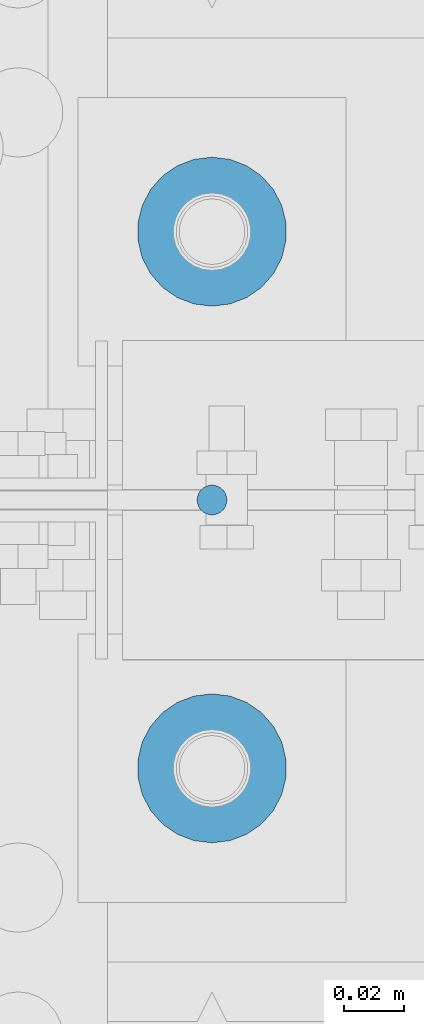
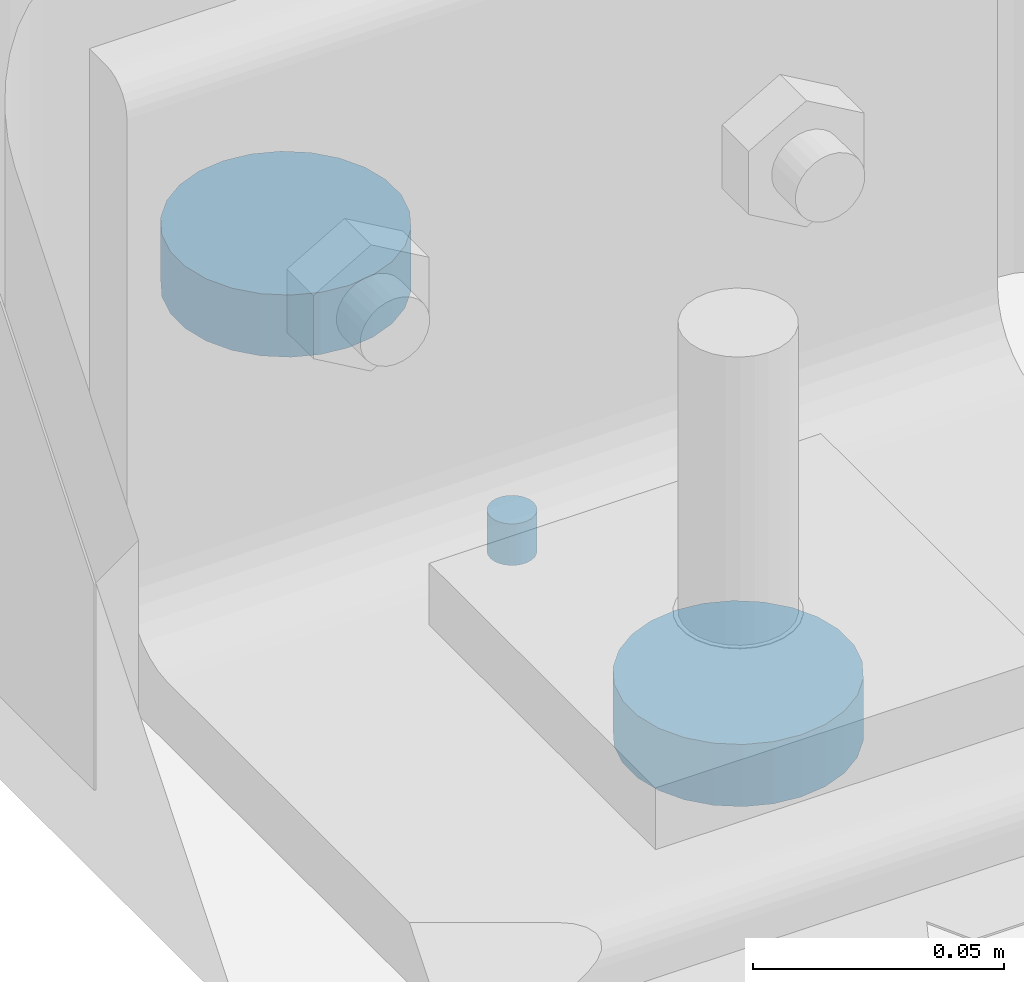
# One storey, part 212 of 362: 3 mechanical fasteners.
"""IFC2X3 building model written with IfcOpenShell, lengths in millimetres."""

from ifc_helpers import new_model, si_unit, frame, origin_with_axes, origin_2d_with_axis, place, context, subcontext, project, spatial, circle, extrude, source, transform, mapped, material, type_object, element, save


model = new_model("IFC2X3")

# Units and contexts
model_context = context("Model", 3, precision=1e-05, world=origin_with_axes())
body_context = subcontext(model_context, "Body", "Model", "MODEL_VIEW")
ifc_project = project(units=[si_unit("LENGTHUNIT", "METRE", prefix="MILLI"), si_unit("AREAUNIT", "SQUARE_METRE"), si_unit("VOLUMEUNIT", "CUBIC_METRE"), si_unit("MASSUNIT", "GRAM", prefix="KILO"), si_unit("TIMEUNIT", "SECOND"), si_unit("PLANEANGLEUNIT", "RADIAN"), si_unit("SOLIDANGLEUNIT", "STERADIAN"), si_unit("THERMODYNAMICTEMPERATUREUNIT", "DEGREE_CELSIUS"), si_unit("LUMINOUSINTENSITYUNIT", "LUMEN")], contexts=[model_context])

# Site, building, storey
site_placement = place(None, origin_with_axes())
site = spatial("IfcSite", under=ifc_project, at=site_placement, Name="Undefined", CompositionType="ELEMENT")
building_placement = place(site_placement, origin_with_axes())
building = spatial("IfcBuilding", under=site, at=building_placement, Name="Undefined", CompositionType="ELEMENT")
storey_placement = place(building_placement, origin_with_axes())
storey = spatial("IfcBuildingStorey", under=building, at=storey_placement, Name="Undefined", CompositionType="ELEMENT", Elevation=0.0)

# Mechanical fasteners
ifc_material = material(Name="6.8")
mechanical_fastener_type = type_object("IfcMechanicalFastenerType", Name="Bolt assembly")
shared_shape_1 = source(origin_with_axes(), body_context, "Body", "SweptSolid", [
    extrude(circle(Radius=25.0, at=origin_2d_with_axis()), frame((0.0, -14.999999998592, 0.0), z_axis=(0.0, 1.0, 0.0), x_axis=(1.0, 0.0, 0.0)), (0.0, 0.0, 1.0), 15.1),
])
for number, where, z_axis, x_axis, name in (
    (1, (-45.0, 3710.0, -200.0), (-1.0, 0.0, 0.0), (0.0, 1.0, 0.0), "Bolt assembly"),
    (2, (-45.0, 3890.0, -200.0), (1.0, 0.0, 0.0), (0.0, -1.0, 0.0), "Bolt assembly"),
):
    element("IfcMechanicalFastener", number, at=place(storey_placement, frame(where, z_axis=z_axis, x_axis=x_axis)), inside=storey, type_object=mechanical_fastener_type, material=ifc_material, Name=name, NominalDiameter=30.0, NominalLength=15.0, context=body_context, shape_type="MappedRepresentation", body=[
        mapped(shared_shape_1, transform((0.0, 0.0, 0.0))),
    ])
shared_shape_2 = source(origin_with_axes(), body_context, "Body", "SweptSolid", [
    extrude(circle(Radius=5.0, at=origin_2d_with_axis()), frame((0.0, 0.0, 0.0), z_axis=(0.0, 1.0, 0.0), x_axis=(1.0, 0.0, 0.0)), (0.0, 0.0, 1.0), 10.1),
])
mechanical_fastener_placement = place(storey_placement, frame((-45.0, 3800.00000007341, -200.0), z_axis=(0.0, 1.0, 0.0), x_axis=(1.0, 0.0, 0.0)))
element("IfcMechanicalFastener", 3, at=mechanical_fastener_placement, inside=storey, type_object=mechanical_fastener_type, material=ifc_material, Name="Bolt assembly", NominalDiameter=8.0, NominalLength=10.0, context=body_context, shape_type="MappedRepresentation", body=[
    mapped(shared_shape_2, transform((0.0, 0.0, 0.0))),
])

save(model, "model.ifc")
